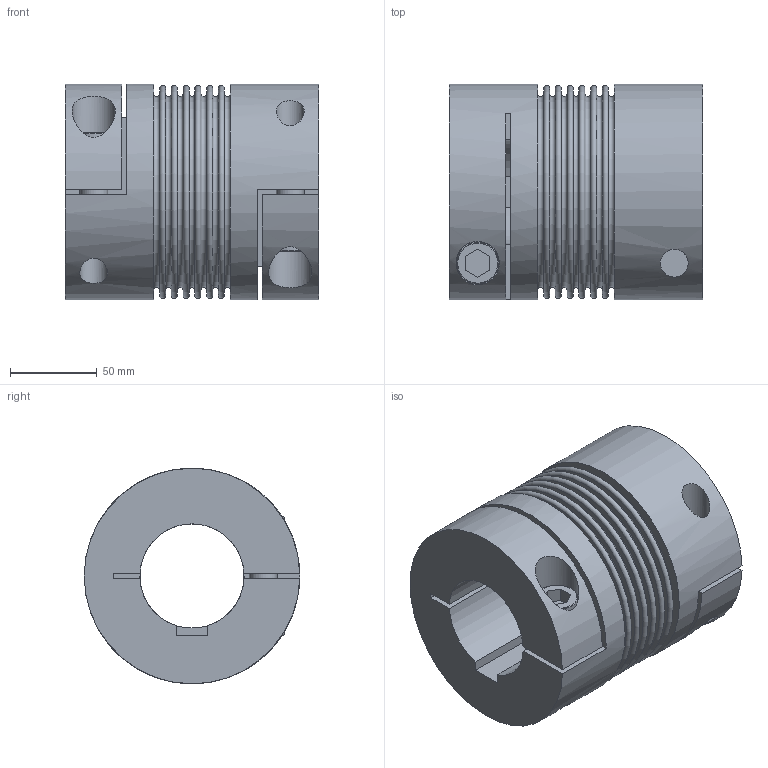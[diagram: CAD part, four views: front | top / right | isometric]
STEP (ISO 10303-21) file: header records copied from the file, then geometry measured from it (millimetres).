
FILE_DESCRIPTION(/* description */ ('STEP AP214'),/* implementation_level */ '2;1');
FILE_NAME(/* name */ 'C:\Diequa Files\DieQua Coupling\Website Step Files\BC.500.146.#.#.stp',/* time_stamp */ '2018-10-25T16:20:56-05:00',/* author */ ('DiequaCAD'),/* organization */ (''),/* preprocessor_version */ 'ST-DEVELOPER v17.2',/* originating_system */ 'Autodesk Inventor 2019',/* authorisation */ ' ');
FILE_SCHEMA (('AUTOMOTIVE_DESIGN { 1 0 10303 214 3 1 1 }'));
Length unit declared in the file: millimetre
Products named in the file (1): BC2.500.146.#.#
Bounding box: 146 x 124 x 124 mm (x, y, z)
Volume: 965717.3 mm3; surface area: 176492.5 mm2
Topology: 1 solids, 1 shells, 88 faces, 220 edges, 156 vertices
Faces by surface type: plane 58, torus 15, cylinder 15
Full cylindrical faces by diameter (mm): 16 x4, 24 x2, 25 x2, 104 x1, 124 x2
Entity records: 2923 total; most frequent: CARTESIAN_POINT 623, DIRECTION 499, ORIENTED_EDGE 440, EDGE_CURVE 220, AXIS2_PLACEMENT_3D 196, VERTEX_POINT 156, EDGE_LOOP 116, LINE 107
